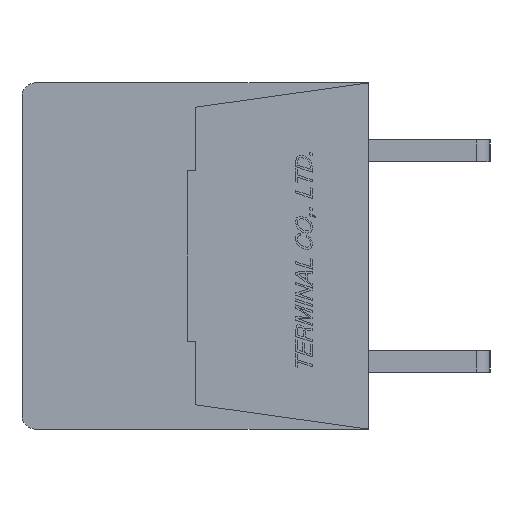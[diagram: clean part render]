
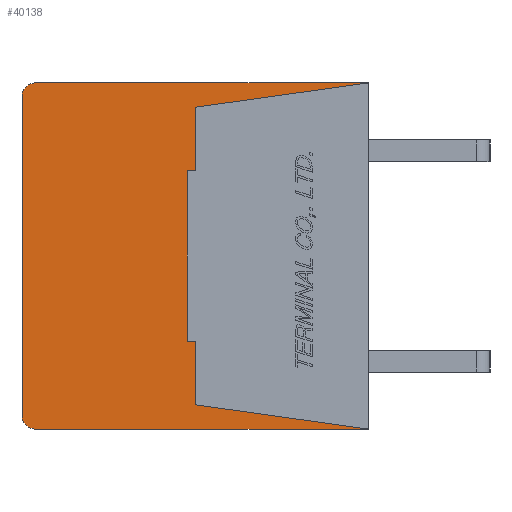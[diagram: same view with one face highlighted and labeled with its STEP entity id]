
A CAD part, left-side view. The second image highlights one B-rep face of the part: STEP entity #40138.
In plain terms, the highlighted planar face has unit normal (-1, 0, 0).
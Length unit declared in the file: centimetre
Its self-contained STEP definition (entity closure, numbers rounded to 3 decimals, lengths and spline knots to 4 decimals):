
#2039=CIRCLE('',#68701,0.05);
#2040=CIRCLE('',#68704,0.05);
#3558=VERTEX_POINT('',#55771);
#3559=VERTEX_POINT('',#55773);
#3560=VERTEX_POINT('',#55777);
#3561=VERTEX_POINT('',#55781);
#3562=VERTEX_POINT('',#55785);
#3563=VERTEX_POINT('',#55789);
#3564=VERTEX_POINT('',#55793);
#3565=VERTEX_POINT('',#55795);
#3566=VERTEX_POINT('',#55797);
#3567=VERTEX_POINT('',#55799);
#3568=VERTEX_POINT('',#55801);
#3569=VERTEX_POINT('',#55803);
#7809=VECTOR('',#46570,1.);
#7813=VECTOR('',#46579,1.);
#7816=VECTOR('',#46587,1.);
#7817=VECTOR('',#46589,1.);
#7818=VECTOR('',#46590,1.);
#7819=VECTOR('',#46591,1.);
#7820=VECTOR('',#46592,1.);
#7821=VECTOR('',#46593,1.);
#7822=VECTOR('',#46594,1.);
#7823=VECTOR('',#46595,1.);
#12526=LINE('',#55772,#7809);
#12530=LINE('',#55782,#7813);
#12533=LINE('',#55790,#7816);
#12534=LINE('',#55792,#7817);
#12535=LINE('',#55794,#7818);
#12536=LINE('',#55796,#7819);
#12537=LINE('',#55798,#7820);
#12538=LINE('',#55800,#7821);
#12539=LINE('',#55802,#7822);
#12540=LINE('',#55804,#7823);
#17789=EDGE_CURVE('',#3559,#3558,#12526,.T.);
#17792=EDGE_CURVE('',#3560,#3558,#2039,.T.);
#17794=EDGE_CURVE('',#3560,#3561,#12530,.T.);
#17796=EDGE_CURVE('',#3562,#3561,#2040,.T.);
#17798=EDGE_CURVE('',#3562,#3563,#12533,.T.);
#17799=EDGE_CURVE('',#3564,#3559,#12534,.T.);
#17800=EDGE_CURVE('',#3563,#3565,#12535,.T.);
#17801=EDGE_CURVE('',#3565,#3566,#12536,.T.);
#17802=EDGE_CURVE('',#3566,#3567,#12537,.T.);
#17803=EDGE_CURVE('',#3567,#3568,#12538,.T.);
#17804=EDGE_CURVE('',#3568,#3569,#12539,.T.);
#17805=EDGE_CURVE('',#3569,#3564,#12540,.T.);
#25949=ORIENTED_EDGE('',*,*,#17799,.T.);
#25950=ORIENTED_EDGE('',*,*,#17789,.T.);
#25951=ORIENTED_EDGE('',*,*,#17792,.F.);
#25952=ORIENTED_EDGE('',*,*,#17794,.T.);
#25953=ORIENTED_EDGE('',*,*,#17796,.F.);
#25954=ORIENTED_EDGE('',*,*,#17798,.T.);
#25955=ORIENTED_EDGE('',*,*,#17800,.T.);
#25956=ORIENTED_EDGE('',*,*,#17801,.T.);
#25957=ORIENTED_EDGE('',*,*,#17802,.T.);
#25958=ORIENTED_EDGE('',*,*,#17803,.T.);
#25959=ORIENTED_EDGE('',*,*,#17804,.T.);
#25960=ORIENTED_EDGE('',*,*,#17805,.T.);
#34954=EDGE_LOOP('',(#25949,#25950,#25951,#25952,#25953,#25954,#25955,#25956,
#25957,#25958,#25959,#25960));
#37601=FACE_BOUND('',#34954,.T.);
#40138=ADVANCED_FACE('',(#37601),#42331,.F.);
#42331=PLANE('',#68706);
#46570=DIRECTION('',(0.,1.,0.));
#46575=DIRECTION('',(1.,0.,0.));
#46576=DIRECTION('',(0.,0.,-0.05));
#46579=DIRECTION('',(0.,0.,-1.));
#46583=DIRECTION('',(1.,0.,0.));
#46584=DIRECTION('',(0.,0.,-0.05));
#46587=DIRECTION('',(0.,-1.,0.));
#46588=DIRECTION('',(1.,0.,0.));
#46589=DIRECTION('',(0.,-0.99,0.139));
#46590=DIRECTION('',(0.,0.99,0.139));
#46591=DIRECTION('',(0.,0.,1.));
#46592=DIRECTION('',(0.,1.,0.));
#46593=DIRECTION('',(0.,0.,1.));
#46594=DIRECTION('',(0.,-1.,0.));
#46595=DIRECTION('',(0.,0.,1.));
#55771=CARTESIAN_POINT('',(-1.,1.23,0.64));
#55772=CARTESIAN_POINT('',(-1.,0.,0.64));
#55773=CARTESIAN_POINT('',(-1.,0.,0.64));
#55777=CARTESIAN_POINT('',(-1.,1.28,0.59));
#55778=CARTESIAN_POINT('',(-1.,1.23,0.59));
#55781=CARTESIAN_POINT('',(-1.,1.28,-0.59));
#55782=CARTESIAN_POINT('',(-1.,1.28,0.59));
#55785=CARTESIAN_POINT('',(-1.,1.23,-0.64));
#55786=CARTESIAN_POINT('',(-1.,1.23,-0.59));
#55789=CARTESIAN_POINT('',(-1.,0.,-0.64));
#55790=CARTESIAN_POINT('',(-1.,1.23,-0.64));
#55791=CARTESIAN_POINT('',(-1.,0.6345,0.));
#55792=CARTESIAN_POINT('',(-1.,0.64,0.55));
#55793=CARTESIAN_POINT('',(-1.,0.64,0.55));
#55794=CARTESIAN_POINT('',(-1.,0.,-0.64));
#55795=CARTESIAN_POINT('',(-1.,0.64,-0.55));
#55796=CARTESIAN_POINT('',(-1.,0.64,-0.55));
#55797=CARTESIAN_POINT('',(-1.,0.64,-0.315));
#55798=CARTESIAN_POINT('',(-1.,0.64,-0.315));
#55799=CARTESIAN_POINT('',(-1.,0.67,-0.315));
#55800=CARTESIAN_POINT('',(-1.,0.67,-0.315));
#55801=CARTESIAN_POINT('',(-1.,0.67,0.315));
#55802=CARTESIAN_POINT('',(-1.,0.67,0.315));
#55803=CARTESIAN_POINT('',(-1.,0.64,0.315));
#55804=CARTESIAN_POINT('',(-1.,0.64,0.315));
#68701=AXIS2_PLACEMENT_3D('',#55778,#46575,#46576);
#68704=AXIS2_PLACEMENT_3D('',#55786,#46583,#46584);
#68706=AXIS2_PLACEMENT_3D('',#55791,#46588,$);
